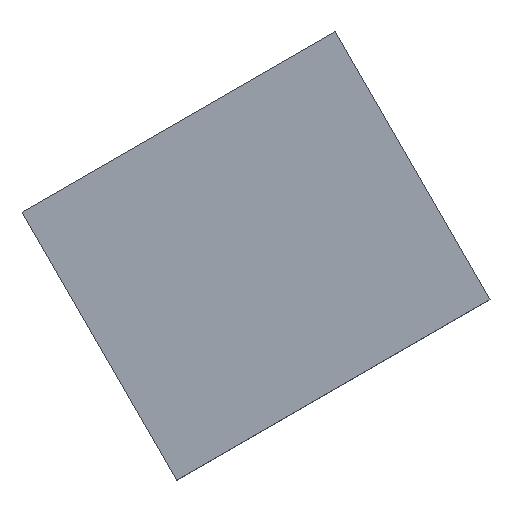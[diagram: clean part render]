
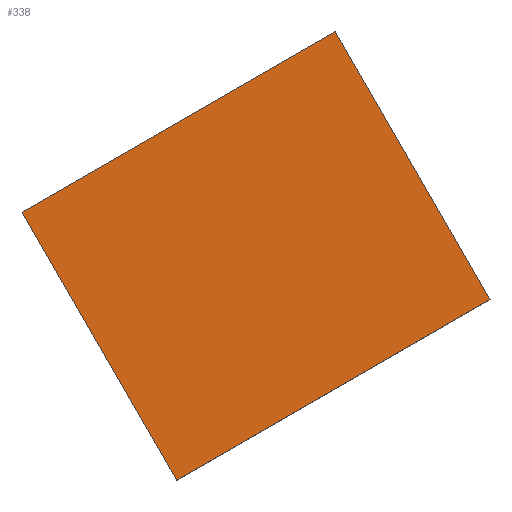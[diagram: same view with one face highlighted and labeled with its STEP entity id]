
A CAD part, top view. The second image highlights one B-rep face of the part: STEP entity #338.
In plain terms, the highlighted planar face has unit normal (0, 0, 1).
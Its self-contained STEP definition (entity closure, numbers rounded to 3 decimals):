
#24 = VERTEX_POINT('',#25);
#25 = CARTESIAN_POINT('',(135.564,85.196,18.));
#32 = PLANE('',#33);
#33 = AXIS2_PLACEMENT_3D('',#34,#35,#36);
#34 = CARTESIAN_POINT('',(135.564,85.196,14.));
#35 = DIRECTION('',(-0.5,0.866,0.));
#36 = DIRECTION('',(0.866,0.5,0.));
#44 = PLANE('',#45);
#45 = AXIS2_PLACEMENT_3D('',#46,#47,#48);
#46 = CARTESIAN_POINT('',(141.564,74.804,14.));
#47 = DIRECTION('',(-0.866,-0.5,0.));
#48 = DIRECTION('',(-0.5,0.866,0.));
#56 = EDGE_CURVE('',#24,#57,#59,.T.);
#57 = VERTEX_POINT('',#58);
#58 = CARTESIAN_POINT('',(147.688,92.196,18.));
#59 = SURFACE_CURVE('',#60,(#64,#71),.PCURVE_S1.);
#60 = LINE('',#61,#62);
#61 = CARTESIAN_POINT('',(135.564,85.196,18.));
#62 = VECTOR('',#63,1.);
#63 = DIRECTION('',(0.866,0.5,0.));
#64 = PCURVE('',#32,#65);
#65 = DEFINITIONAL_REPRESENTATION('',(#66),#70);
#66 = LINE('',#67,#68);
#67 = CARTESIAN_POINT('',(0.,-4.));
#68 = VECTOR('',#69,1.);
#69 = DIRECTION('',(1.,0.));
#70 = ( GEOMETRIC_REPRESENTATION_CONTEXT(2) 
PARAMETRIC_REPRESENTATION_CONTEXT() REPRESENTATION_CONTEXT('2D SPACE',''
  ) );
#71 = PCURVE('',#72,#77);
#72 = PLANE('',#73);
#73 = AXIS2_PLACEMENT_3D('',#74,#75,#76);
#74 = CARTESIAN_POINT('',(144.626,83.5,18.));
#75 = DIRECTION('',(-0.,-0.,-1.));
#76 = DIRECTION('',(-1.,0.,0.));
#77 = DEFINITIONAL_REPRESENTATION('',(#78),#82);
#78 = LINE('',#79,#80);
#79 = CARTESIAN_POINT('',(9.062,1.696));
#80 = VECTOR('',#81,1.);
#81 = DIRECTION('',(-0.866,0.5));
#82 = ( GEOMETRIC_REPRESENTATION_CONTEXT(2) 
PARAMETRIC_REPRESENTATION_CONTEXT() REPRESENTATION_CONTEXT('2D SPACE',''
  ) );
#100 = PLANE('',#101);
#101 = AXIS2_PLACEMENT_3D('',#102,#103,#104);
#102 = CARTESIAN_POINT('',(147.688,92.196,14.));
#103 = DIRECTION('',(0.866,0.5,-0.));
#104 = DIRECTION('',(0.5,-0.866,0.));
#142 = EDGE_CURVE('',#57,#143,#145,.T.);
#143 = VERTEX_POINT('',#144);
#144 = CARTESIAN_POINT('',(153.688,81.804,18.));
#145 = SURFACE_CURVE('',#146,(#150,#157),.PCURVE_S1.);
#146 = LINE('',#147,#148);
#147 = CARTESIAN_POINT('',(147.688,92.196,18.));
#148 = VECTOR('',#149,1.);
#149 = DIRECTION('',(0.5,-0.866,0.));
#150 = PCURVE('',#100,#151);
#151 = DEFINITIONAL_REPRESENTATION('',(#152),#156);
#152 = LINE('',#153,#154);
#153 = CARTESIAN_POINT('',(0.,-4.));
#154 = VECTOR('',#155,1.);
#155 = DIRECTION('',(1.,0.));
#156 = ( GEOMETRIC_REPRESENTATION_CONTEXT(2) 
PARAMETRIC_REPRESENTATION_CONTEXT() REPRESENTATION_CONTEXT('2D SPACE',''
  ) );
#157 = PCURVE('',#72,#158);
#158 = DEFINITIONAL_REPRESENTATION('',(#159),#163);
#159 = LINE('',#160,#161);
#160 = CARTESIAN_POINT('',(-3.062,8.696));
#161 = VECTOR('',#162,1.);
#162 = DIRECTION('',(-0.5,-0.866));
#163 = ( GEOMETRIC_REPRESENTATION_CONTEXT(2) 
PARAMETRIC_REPRESENTATION_CONTEXT() REPRESENTATION_CONTEXT('2D SPACE',''
  ) );
#181 = PLANE('',#182);
#182 = AXIS2_PLACEMENT_3D('',#183,#184,#185);
#183 = CARTESIAN_POINT('',(153.688,81.804,14.));
#184 = DIRECTION('',(0.5,-0.866,0.));
#185 = DIRECTION('',(-0.866,-0.5,0.));
#218 = EDGE_CURVE('',#143,#219,#221,.T.);
#219 = VERTEX_POINT('',#220);
#220 = CARTESIAN_POINT('',(141.564,74.804,18.));
#221 = SURFACE_CURVE('',#222,(#226,#233),.PCURVE_S1.);
#222 = LINE('',#223,#224);
#223 = CARTESIAN_POINT('',(153.688,81.804,18.));
#224 = VECTOR('',#225,1.);
#225 = DIRECTION('',(-0.866,-0.5,0.));
#226 = PCURVE('',#181,#227);
#227 = DEFINITIONAL_REPRESENTATION('',(#228),#232);
#228 = LINE('',#229,#230);
#229 = CARTESIAN_POINT('',(0.,-4.));
#230 = VECTOR('',#231,1.);
#231 = DIRECTION('',(1.,0.));
#232 = ( GEOMETRIC_REPRESENTATION_CONTEXT(2) 
PARAMETRIC_REPRESENTATION_CONTEXT() REPRESENTATION_CONTEXT('2D SPACE',''
  ) );
#233 = PCURVE('',#72,#234);
#234 = DEFINITIONAL_REPRESENTATION('',(#235),#239);
#235 = LINE('',#236,#237);
#236 = CARTESIAN_POINT('',(-9.062,-1.696));
#237 = VECTOR('',#238,1.);
#238 = DIRECTION('',(0.866,-0.5));
#239 = ( GEOMETRIC_REPRESENTATION_CONTEXT(2) 
PARAMETRIC_REPRESENTATION_CONTEXT() REPRESENTATION_CONTEXT('2D SPACE',''
  ) );
#289 = EDGE_CURVE('',#219,#24,#290,.T.);
#290 = SURFACE_CURVE('',#291,(#295,#302),.PCURVE_S1.);
#291 = LINE('',#292,#293);
#292 = CARTESIAN_POINT('',(141.564,74.804,18.));
#293 = VECTOR('',#294,1.);
#294 = DIRECTION('',(-0.5,0.866,0.));
#295 = PCURVE('',#44,#296);
#296 = DEFINITIONAL_REPRESENTATION('',(#297),#301);
#297 = LINE('',#298,#299);
#298 = CARTESIAN_POINT('',(0.,-4.));
#299 = VECTOR('',#300,1.);
#300 = DIRECTION('',(1.,0.));
#301 = ( GEOMETRIC_REPRESENTATION_CONTEXT(2) 
PARAMETRIC_REPRESENTATION_CONTEXT() REPRESENTATION_CONTEXT('2D SPACE',''
  ) );
#302 = PCURVE('',#72,#303);
#303 = DEFINITIONAL_REPRESENTATION('',(#304),#308);
#304 = LINE('',#305,#306);
#305 = CARTESIAN_POINT('',(3.062,-8.696));
#306 = VECTOR('',#307,1.);
#307 = DIRECTION('',(0.5,0.866));
#308 = ( GEOMETRIC_REPRESENTATION_CONTEXT(2) 
PARAMETRIC_REPRESENTATION_CONTEXT() REPRESENTATION_CONTEXT('2D SPACE',''
  ) );
#338 = ADVANCED_FACE('',(#339),#72,.F.);
#339 = FACE_BOUND('',#340,.F.);
#340 = EDGE_LOOP('',(#341,#342,#343,#344));
#341 = ORIENTED_EDGE('',*,*,#56,.T.);
#342 = ORIENTED_EDGE('',*,*,#142,.T.);
#343 = ORIENTED_EDGE('',*,*,#218,.T.);
#344 = ORIENTED_EDGE('',*,*,#289,.T.);
